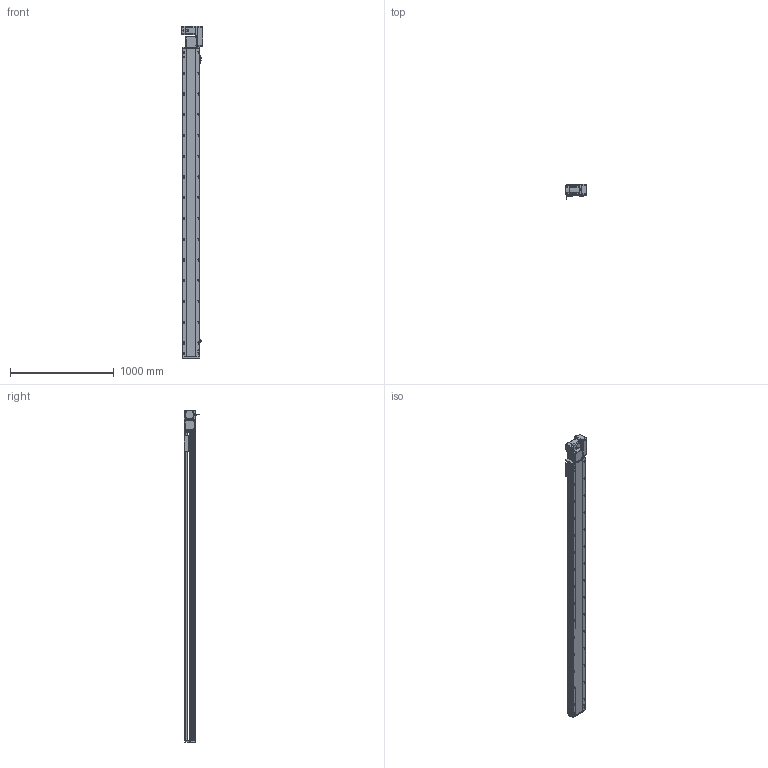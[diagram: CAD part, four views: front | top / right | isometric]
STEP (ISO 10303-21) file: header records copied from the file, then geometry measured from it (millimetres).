
FILE_DESCRIPTION (( 'STEP AP214' ), '1' );
FILE_NAME ('RTB17S-XX-2700-R-M75-C4.STEP', '2025-12-12T01:48:37', ( '' ), ( '' ), 'SwSTEP 2.0', 'SolidWorks 2018', '' );
FILE_SCHEMA (( 'AUTOMOTIVE_DESIGN' ));
Length unit declared in the file: millimetre
Products named in the file (15): RTB17S-XX-2700-R-M75-C4; RTB17S-L-014-T20-P75--々湍釱^RTB17S-R-々湍釱蚾饜-750W_RTB17S-XX-XX-R-M75-C4; 750W萇儂^RTB17S-XX-XX-R-M75-C4; RTB17S-R-々湍釱蚾饜-750W^RTB17S-XX-XX-R-M75-C4; RTH13-BL-012覜茼え俋离^RTB17S-賑釱_RTB17S-XX-XX-R-M75-C4; RTB17S-L-001-耜醱啣^RTB17S-XX-XX-R-M75-C4; RTB22S-GY-018P^RTB17S-R-々湍釱蚾饜-750W_RTB17S-XX-XX-R-M75-C4; RTB22S-GY-017P^RTB17S-R-々湍釱蚾饜-750W_RTB17S-XX-XX-R-M75-C4; RTB22S-GY-008-M75--萇儂啣^RTB17S-R-々湍釱蚾饜-750W_RTB17S-XX-XX-R-M75-C4; RTB17S-L-007奻裔^RTB17S-XX-XX-R-M75-C4; RTB17S-賑釱^RTB17S-XX-XX-R-M75-C4; RTB17-R-011菁釱^RTB17S-XX-XX-R-M75-C4; RTB22S-GY-005P^RTB17S-R-々湍釱蚾饜-750W_RTB17S-XX-XX-R-M75-C4; RTB17S-L-004-賑釱^RTB17S-賑釱_RTB17S-XX-XX-R-M75-C4; EE672^RTB17S-XX-XX-R-M75-C4
Assembly tree (17 placements, depth 3):
  RTB17S-XX-2700-R-M75-C4
    RTB17-R-011菁釱^RTB17S-XX-XX-R-M75-C4
    EE672^RTB17S-XX-XX-R-M75-C4  x3
    RTB17S-L-001-耜醱啣^RTB17S-XX-XX-R-M75-C4
    RTB17S-賑釱^RTB17S-XX-XX-R-M75-C4
      RTB17S-L-004-賑釱^RTB17S-賑釱_RTB17S-XX-XX-R-M75-C4
      RTH13-BL-012覜茼え俋离^RTB17S-賑釱_RTB17S-XX-XX-R-M75-C4
    RTB17S-L-007奻裔^RTB17S-XX-XX-R-M75-C4
    750W萇儂^RTB17S-XX-XX-R-M75-C4
    RTB17S-R-々湍釱蚾饜-750W^RTB17S-XX-XX-R-M75-C4
      RTB17S-L-014-T20-P75--々湍釱^RTB17S-R-々湍釱蚾饜-750W_RTB17S-XX-XX-R-M75-C4
      RTB22S-GY-005P^RTB17S-R-々湍釱蚾饜-750W_RTB17S-XX-XX-R-M75-C4
      RTB22S-GY-017P^RTB17S-R-々湍釱蚾饜-750W_RTB17S-XX-XX-R-M75-C4  x2
      RTB22S-GY-008-M75--萇儂啣^RTB17S-R-々湍釱蚾饜-750W_RTB17S-XX-XX-R-M75-C4
      RTB22S-GY-018P^RTB17S-R-々湍釱蚾饜-750W_RTB17S-XX-XX-R-M75-C4
Bounding box: 207.4 x 152.7 x 3199 mm (x, y, z)
Volume: 22825488 mm3; surface area: 4159978 mm2
Topology: 17 solids, 17 shells, 2233 faces, 6268 edges, 4058 vertices
Faces by surface type: plane 988, cylinder 829, bspline 294, cone 110, sphere 8, torus 4
Entity records: 65014 total; most frequent: CARTESIAN_POINT 19332, ORIENTED_EDGE 9380, DIRECTION 8672, EDGE_CURVE 4690, AXIS2_PLACEMENT_3D 3078, VERTEX_POINT 3062, VECTOR 2516, LINE 2516
